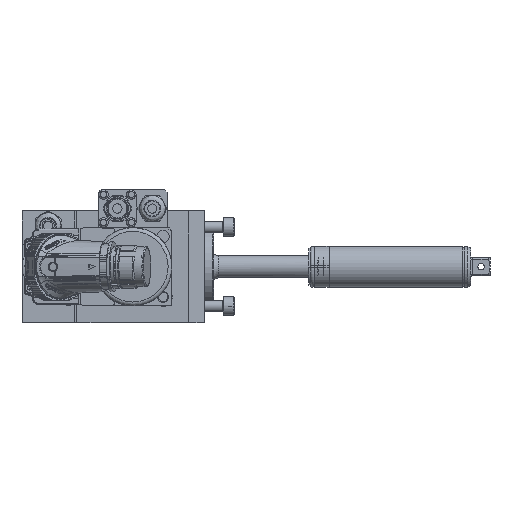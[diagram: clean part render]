
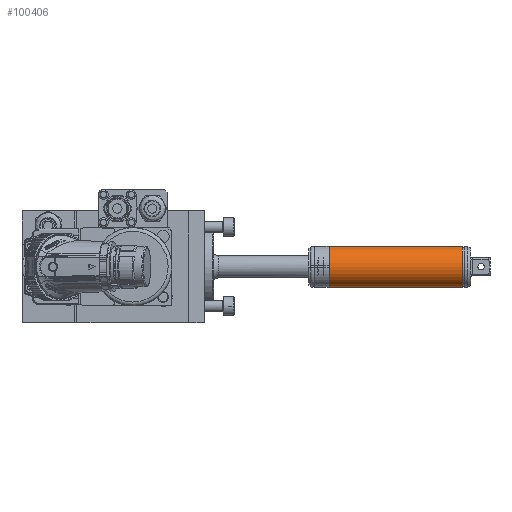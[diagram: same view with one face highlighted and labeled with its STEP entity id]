
A CAD part, left-side view. The second image highlights one B-rep face of the part: STEP entity #100406.
In plain terms, the highlighted cylindrical face has radius 11 mm (diameter 22 mm), a full revolution.
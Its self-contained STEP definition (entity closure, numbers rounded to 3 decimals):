
#1392 = VERTEX_POINT ( 'NONE', #85865 ) ;
#3110 = EDGE_CURVE ( 'NONE', #79383, #79383, #64910, .T. ) ;
#3296 = CARTESIAN_POINT ( 'NONE',  ( -1.026, 10.998, 0.263 ) ) ;
#3674 = CARTESIAN_POINT ( 'NONE',  ( -2.614, 10.971, -0.8 ) ) ;
#12071 = CARTESIAN_POINT ( 'NONE',  ( -1., 11., -0.13 ) ) ;
#12449 = CARTESIAN_POINT ( 'NONE',  ( -2.873, 10.989, -0.505 ) ) ;
#16124 = FACE_OUTER_BOUND ( 'NONE', #55703, .T. ) ;
#16324 = FACE_BOUND ( 'NONE', #94602, .T. ) ;
#16761 = FACE_OUTER_BOUND ( 'NONE', #56931, .T. ) ;
#20857 = CARTESIAN_POINT ( 'NONE',  ( -1.126, 10.989, -0.503 ) ) ;
#21220 = CARTESIAN_POINT ( 'NONE',  ( -3., 11., -0.133 ) ) ;
#29265 = CARTESIAN_POINT ( 'NONE',  ( -1.868, 10.954, 1. ) ) ;
#29631 = CARTESIAN_POINT ( 'NONE',  ( -1.386, 10.971, -0.8 ) ) ;
#30013 = CARTESIAN_POINT ( 'NONE',  ( -2.974, 10.998, 0.261 ) ) ;
#32673 = DIRECTION ( 'NONE',  ( 1., 0., 0. ) ) ;
#34177 = EDGE_CURVE ( 'NONE', #1392, #1392, #86114, .T. ) ;
#38028 = CARTESIAN_POINT ( 'NONE',  ( -1.738, 10.957, 0.974 ) ) ;
#38396 = CARTESIAN_POINT ( 'NONE',  ( -1.738, 10.957, -0.974 ) ) ;
#38773 = CARTESIAN_POINT ( 'NONE',  ( -2.8, 10.983, 0.614 ) ) ;
#39366 = CARTESIAN_POINT ( 'NONE',  ( -69., 0., -11. ) ) ;
#44369 = ORIENTED_EDGE ( 'NONE', *, *, #3110, .T. ) ;
#44848 = VERTEX_POINT ( 'NONE', #90786 ) ;
#46107 = CYLINDRICAL_SURFACE ( 'NONE', #63750, 11. ) ;
#46767 = CARTESIAN_POINT ( 'NONE',  ( -1.385, 10.971, 0.799 ) ) ;
#47151 = CARTESIAN_POINT ( 'NONE',  ( -2.13, 10.954, -1. ) ) ;
#47523 = CARTESIAN_POINT ( 'NONE',  ( -2.264, 10.954, 1. ) ) ;
#50179 = CARTESIAN_POINT ( 'NONE',  ( 2.5, 0., 0. ) ) ;
#50181 = CARTESIAN_POINT ( 'NONE',  ( 32.073, 0., 0. ) ) ;
#50879 = DIRECTION ( 'NONE',  ( 1., 0., 0. ) ) ;
#55530 = CARTESIAN_POINT ( 'NONE',  ( -1.126, 10.989, 0.503 ) ) ;
#55703 = EDGE_LOOP ( 'NONE', ( #44369 ) ) ;
#55888 = CARTESIAN_POINT ( 'NONE',  ( -2.503, 10.965, -0.874 ) ) ;
#56931 = EDGE_LOOP ( 'NONE', ( #95525 ) ) ;
#58911 = DIRECTION ( 'NONE',  ( 0., 1., 0. ) ) ;
#63750 = AXIS2_PLACEMENT_3D ( 'NONE', #50181, #32673, #85332 ) ;
#64314 = CARTESIAN_POINT ( 'NONE',  ( -1., 11., 0.131 ) ) ;
#64689 = CARTESIAN_POINT ( 'NONE',  ( -2.799, 10.983, -0.616 ) ) ;
#64910 = CIRCLE ( 'NONE', #111858, 11. ) ;
#72777 = CARTESIAN_POINT ( 'NONE',  ( -2., 10.954, 1. ) ) ;
#73140 = CARTESIAN_POINT ( 'NONE',  ( -1.026, 10.998, -0.261 ) ) ;
#73509 = CARTESIAN_POINT ( 'NONE',  ( -2.974, 10.998, -0.263 ) ) ;
#79199 = EDGE_CURVE ( 'NONE', #44848, #44848, #85459, .T. ) ;
#79383 = VERTEX_POINT ( 'NONE', #39366 ) ;
#81882 = CARTESIAN_POINT ( 'NONE',  ( -1.199, 10.983, -0.613 ) ) ;
#82253 = CARTESIAN_POINT ( 'NONE',  ( -3., 11., 0.131 ) ) ;
#85332 = DIRECTION ( 'NONE',  ( 0., 0., -1. ) ) ;
#85459 = B_SPLINE_CURVE_WITH_KNOTS ( 'NONE', 3,
 ( #72777, #29265, #38028, #99175, #46767, #108139, #55530, #3296, #64314, #12071, #73140, #20857, #81882, #29631, #90699, #38396, #99557, #47151, #108531, #55888, #3674, #64689, #12449, #73509, #21220, #82253, #30013, #91088, #38773, #99937, #47523, #108909 ),
 .UNSPECIFIED., .T., .F.,
 ( 4, 2, 2, 2, 2, 2, 2, 2, 2, 2, 2, 2, 2, 2, 2, 4 ),
 ( 0., 0., 0.001, 0.001, 0.002, 0.002, 0.002, 0.003, 0.003, 0.004, 0.004, 0.004, 0.005, 0.005, 0.005, 0.006 ),
 .UNSPECIFIED. ) ;
#85865 = CARTESIAN_POINT ( 'NONE',  ( 2.5, 11., 0. ) ) ;
#86114 = CIRCLE ( 'NONE', #89808, 11. ) ;
#89808 = AXIS2_PLACEMENT_3D ( 'NONE', #50179, #111598, #58911 ) ;
#90699 = CARTESIAN_POINT ( 'NONE',  ( -1.496, 10.965, -0.874 ) ) ;
#90786 = CARTESIAN_POINT ( 'NONE',  ( -2., 10.954, 1. ) ) ;
#91088 = CARTESIAN_POINT ( 'NONE',  ( -2.874, 10.989, 0.503 ) ) ;
#94602 = EDGE_LOOP ( 'NONE', ( #98753 ) ) ;
#95525 = ORIENTED_EDGE ( 'NONE', *, *, #34177, .F. ) ;
#98753 = ORIENTED_EDGE ( 'NONE', *, *, #79199, .F. ) ;
#99175 = CARTESIAN_POINT ( 'NONE',  ( -1.496, 10.965, 0.874 ) ) ;
#99557 = CARTESIAN_POINT ( 'NONE',  ( -1.869, 10.954, -1. ) ) ;
#99937 = CARTESIAN_POINT ( 'NONE',  ( -2.523, 10.965, 0.891 ) ) ;
#100406 = ADVANCED_FACE ( 'NONE', ( #16761, #16124, #16324 ), #46107, .T. ) ;
#103392 = CARTESIAN_POINT ( 'NONE',  ( -69., 0., 0. ) ) ;
#108139 = CARTESIAN_POINT ( 'NONE',  ( -1.201, 10.983, 0.615 ) ) ;
#108531 = CARTESIAN_POINT ( 'NONE',  ( -2.262, 10.957, -0.974 ) ) ;
#108909 = CARTESIAN_POINT ( 'NONE',  ( -2., 10.954, 1. ) ) ;
#111598 = DIRECTION ( 'NONE',  ( 1., 0., 0. ) ) ;
#111858 = AXIS2_PLACEMENT_3D ( 'NONE', #103392, #50879, #112336 ) ;
#112336 = DIRECTION ( 'NONE',  ( 0., 0., -1. ) ) ;
